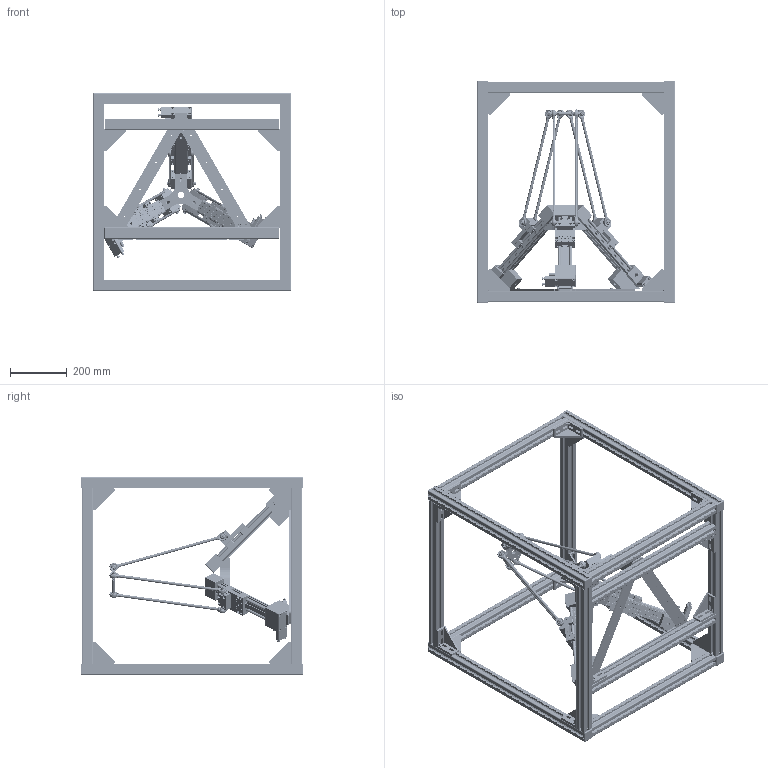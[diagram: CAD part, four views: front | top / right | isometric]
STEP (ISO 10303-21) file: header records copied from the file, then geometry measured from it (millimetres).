
FILE_DESCRIPTION(/* description */ ('DeltaRobot im Transportgestell, ohne Motoren'),/* implementation_level */ '2;1');
FILE_NAME(/* name */ 'I:\Gleitlager\Konstruktion\SERIE NEU (im Aufbau!!)\drylin E\Deltaroboter\Modelle\DLE-DR-0006\DLE-DR-0006.stp',/* time_stamp */ '2019-04-09T12:27:18+02:00',/* author */ ('fkoeching'),/* organization */ (''),/* preprocessor_version */ 'ST-DEVELOPER v17',/* originating_system */ 'Autodesk Inventor 2018',/* authorisation */ '');
FILE_SCHEMA (('AUTOMOTIVE_DESIGN { 1 0 10303 214 3 1 1 }'));
Products named in the file (63): DLE-DR-0006; ETY-DR-0008; ETY-DR-0013; DLE-DR-ZLW-0003; ZSX-104001; ZTL-104002; SAXT-104001; ZTL-10400S-V; SAWT-104002; NOR-10412; ZR-104001; ZR-104001-XX; ZSY-104002; NOR-10735; ZTF-104004; SAXT-104004; SAXT-104002; NOR-10614; ZTF-10400S-V; SAWT-104001; ZTY-104035; NOR-20901; JTEM-10; ZTZ-104009; NOR-10604; AK-DR-0003; ZTY-104004; MH-06; NOR-20114; ZS-104001-WJ200UMA; ZSY-104001; WJ200UMA-01-10-AL; WMA-01-10-AL; WRZ-011007; J200UMA-01-10; NOR-10601; ETY-DR-0011; ZWY-104001; ETY-DR-0010; ETY-DR-0009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
Assembly tree (259 placements, depth 5):
  DLE-DR-0006
    ETY-DR-0008
    ETY-DR-0013  x3
    DLE-DR-ZLW-0003  x3
      ZSX-104001
      ZTL-104002
        SAXT-104001
        SAXT-104002
        NOR-10614  x2
        ZTL-10400S-V
          SAWT-104002
          NOR-10412  x4
          NOR-10604  x4
          JTEM-10  x4
          NOR-20901  x2
          ZTY-104035  x2
        ZTZ-104009  x2
      ZR-104001
        ZR-104001-XX
        NOR-10735  x2
        ZSY-104002  x2
      ZTF-104004
        SAXT-104004
        SAXT-104002
        NOR-10614  x2
        ZTF-10400S-V
          JTEM-10  x4
          SAWT-104001
          ZTY-104035  x2
          NOR-20901  x2
        ZTZ-104009  x2
        NOR-10604  x2
      AK-DR-0003
        ZTY-104004
        MH-06  x2
        NOR-10629  x2
        NOR-20114  x4
      ZS-104001-WJ200UMA
        ZSY-104001
        WJ200UMA-01-10-AL  x4
          WMA-01-10-AL
          WRZ-011007
          J200UMA-01-10
        NOR-10601  x4
    ETY-DR-0011
    ZWY-104001  x3
    ETY-DR-0010  x3
    KDGM-10-A-ER-J   x6
      KARM-10 CL
        _D_KARM-10 CL KDGM Kopfteil
        WKM-10-14
      Rohr 8-10
    ETY-DR-0012  x12
    ETY-DR-0009
    NOR-10737  x12
    NOR-20602  x6
    NOR-10514  x15
    NOR-10610  x3
    NOR-10628  x12
    NOR-11030  x12
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Bounding box: 700 x 788 x 700 mm (x, y, z)
Volume: 9246997.9 mm3; surface area: 6923978.7 mm2
Topology: 396 solids, 396 shells, 18270 faces, 49443 edges, 32499 vertices
Faces by surface type: plane 10737, cylinder 4644, bspline 1152, cone 989, torus 506, sphere 242
Full cylindrical faces by diameter (mm): 2.5 x3, 3 x4, 3.2 x3, 3.5 x4, 4 x42, 4.018 x12, 4.134 x72, 4.2 x4, 4.459 x6, 4.5 x24, 4.917 x66, 5 x148, 5.3 x4, 5.4 x3, 5.5 x55, 5.6 x10, 5.96 x12, 6 x104, 6.2 x24, 6.6 x42, 6.647 x6, 7 x12, 7.2 x12, 8 x54, 8.5 x40, 9.43 x12, 9.5 x24, 10 x154, 10.2 x24, 10.5 x8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
Entity records: 105362 total; most frequent: CARTESIAN_POINT 26720, DIRECTION 16089, ORIENTED_EDGE 15700, EDGE_CURVE 7850, AXIS2_PLACEMENT_3D 5663, VERTEX_POINT 5213, LINE 4763, VECTOR 4763
